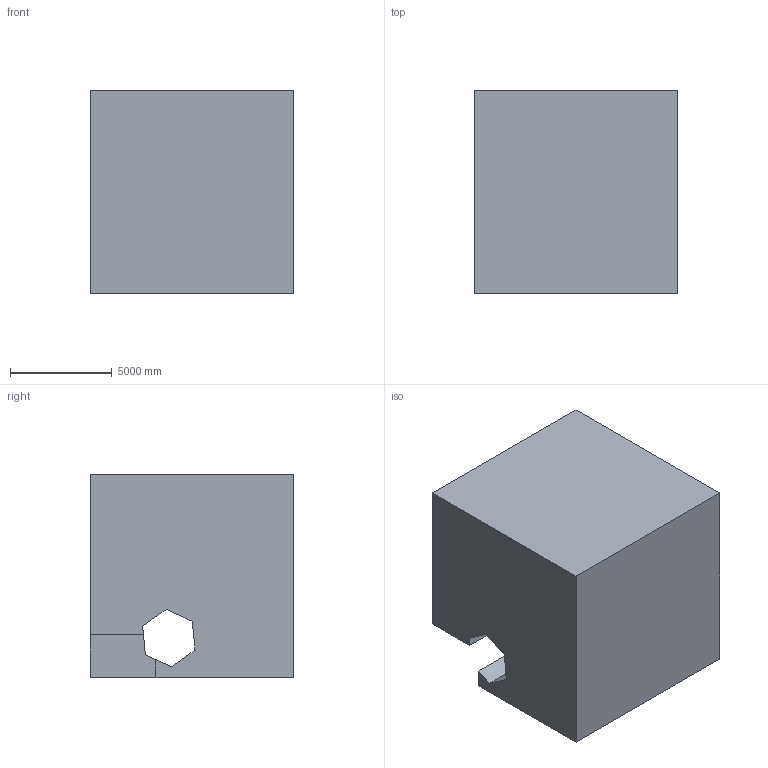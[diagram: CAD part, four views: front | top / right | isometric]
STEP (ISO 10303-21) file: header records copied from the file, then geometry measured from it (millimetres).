
FILE_DESCRIPTION (( 'STEP AP203' ), '1' );
FILE_NAME ('1149.STEP', '2022-08-18T12:57:18', ( 'user' ), ( '' ), 'SwSTEP 2.0', 'SolidWorks 2021', '' );
FILE_SCHEMA (( 'CONFIG_CONTROL_DESIGN' ));
Length unit declared in the file: centimetre
Products named in the file (1): 1149
Bounding box: 10000 x 10000 x 10000 mm (x, y, z)
Volume: 896139828419.8 mm3; surface area: 646078779.1 mm2
Topology: 1 solids, 1 shells, 15 faces, 42 edges, 28 vertices
Faces by surface type: plane 15
Entity records: 557 total; most frequent: CARTESIAN_POINT 86, ORIENTED_EDGE 84, DIRECTION 74, VECTOR 42, EDGE_CURVE 42, LINE 42, VERTEX_POINT 28, EDGE_LOOP 16
